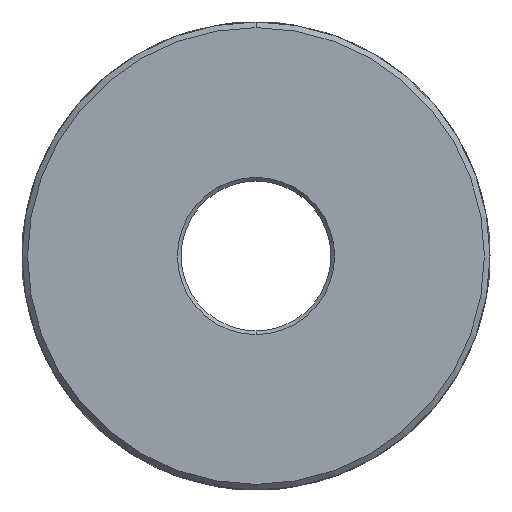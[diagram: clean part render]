
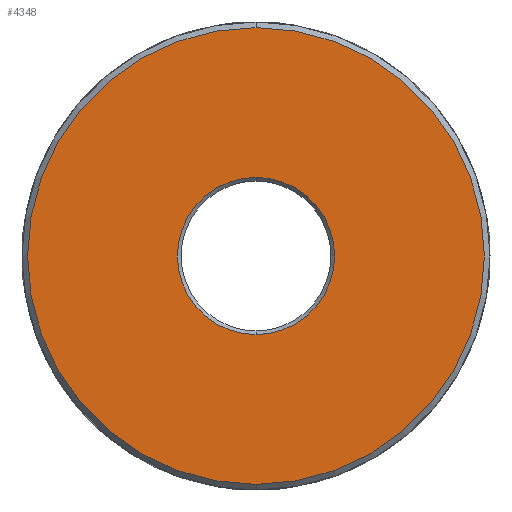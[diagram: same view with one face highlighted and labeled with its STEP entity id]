
A CAD part, front view. The second image highlights one B-rep face of the part: STEP entity #4348.
In plain terms, the highlighted planar face has unit normal (0, -1, 0).
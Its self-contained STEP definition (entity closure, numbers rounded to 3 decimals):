
#446 = VERTEX_POINT ( 'NONE', #3277 ) ;
#492 = CARTESIAN_POINT ( 'NONE',  ( 0., 0., 0. ) ) ;
#510 = AXIS2_PLACEMENT_3D ( 'NONE', #2327, #4707, #6453 ) ;
#667 = CIRCLE ( 'NONE', #3419, 24.4 ) ;
#716 = EDGE_LOOP ( 'NONE', ( #2805, #5785 ) ) ;
#1072 = CIRCLE ( 'NONE', #3937, 8.4 ) ;
#1383 = DIRECTION ( 'NONE',  ( 0., 0., 1. ) ) ;
#2216 = VERTEX_POINT ( 'NONE', #5721 ) ;
#2227 = DIRECTION ( 'NONE',  ( 0., 1., 0. ) ) ;
#2229 = DIRECTION ( 'NONE',  ( 0., 1., 0. ) ) ;
#2327 = CARTESIAN_POINT ( 'NONE',  ( 0., 0., 0. ) ) ;
#2334 = DIRECTION ( 'NONE',  ( 0., 0., 1. ) ) ;
#2663 = VERTEX_POINT ( 'NONE', #4366 ) ;
#2805 = ORIENTED_EDGE ( 'NONE', *, *, #2951, .T. ) ;
#2824 = PLANE ( 'NONE',  #3847 ) ;
#2951 = EDGE_CURVE ( 'NONE', #6178, #2216, #6824, .T. ) ;
#2964 = ORIENTED_EDGE ( 'NONE', *, *, #4748, .T. ) ;
#3102 = EDGE_CURVE ( 'NONE', #2216, #6178, #1072, .T. ) ;
#3269 = FACE_OUTER_BOUND ( 'NONE', #5444, .T. ) ;
#3277 = CARTESIAN_POINT ( 'NONE',  ( 0., 0., 24.4 ) ) ;
#3419 = AXIS2_PLACEMENT_3D ( 'NONE', #492, #4578, #7464 ) ;
#3546 = AXIS2_PLACEMENT_3D ( 'NONE', #3625, #6606, #1383 ) ;
#3625 = CARTESIAN_POINT ( 'NONE',  ( 0., 0., 0. ) ) ;
#3847 = AXIS2_PLACEMENT_3D ( 'NONE', #7564, #2229, #5159 ) ;
#3937 = AXIS2_PLACEMENT_3D ( 'NONE', #5821, #2227, #2334 ) ;
#4054 = CARTESIAN_POINT ( 'NONE',  ( 0., 0., -8.4 ) ) ;
#4348 = ADVANCED_FACE ( 'NONE', ( #6343, #3269 ), #2824, .F. ) ;
#4366 = CARTESIAN_POINT ( 'NONE',  ( 0., 0., -24.4 ) ) ;
#4578 = DIRECTION ( 'NONE',  ( 0., -1., 0. ) ) ;
#4707 = DIRECTION ( 'NONE',  ( 0., -1., 0. ) ) ;
#4714 = CIRCLE ( 'NONE', #510, 24.4 ) ;
#4748 = EDGE_CURVE ( 'NONE', #446, #2663, #667, .T. ) ;
#5159 = DIRECTION ( 'NONE',  ( 0., 0., 1. ) ) ;
#5444 = EDGE_LOOP ( 'NONE', ( #2964, #5687 ) ) ;
#5687 = ORIENTED_EDGE ( 'NONE', *, *, #6230, .T. ) ;
#5721 = CARTESIAN_POINT ( 'NONE',  ( 0., 0., 8.4 ) ) ;
#5785 = ORIENTED_EDGE ( 'NONE', *, *, #3102, .T. ) ;
#5821 = CARTESIAN_POINT ( 'NONE',  ( 0., 0., 0. ) ) ;
#6178 = VERTEX_POINT ( 'NONE', #4054 ) ;
#6230 = EDGE_CURVE ( 'NONE', #2663, #446, #4714, .T. ) ;
#6343 = FACE_BOUND ( 'NONE', #716, .T. ) ;
#6453 = DIRECTION ( 'NONE',  ( 0., 0., 1. ) ) ;
#6606 = DIRECTION ( 'NONE',  ( 0., 1., 0. ) ) ;
#6824 = CIRCLE ( 'NONE', #3546, 8.4 ) ;
#7464 = DIRECTION ( 'NONE',  ( 0., 0., 1. ) ) ;
#7564 = CARTESIAN_POINT ( 'NONE',  ( -50., 0., 32.858 ) ) ;
